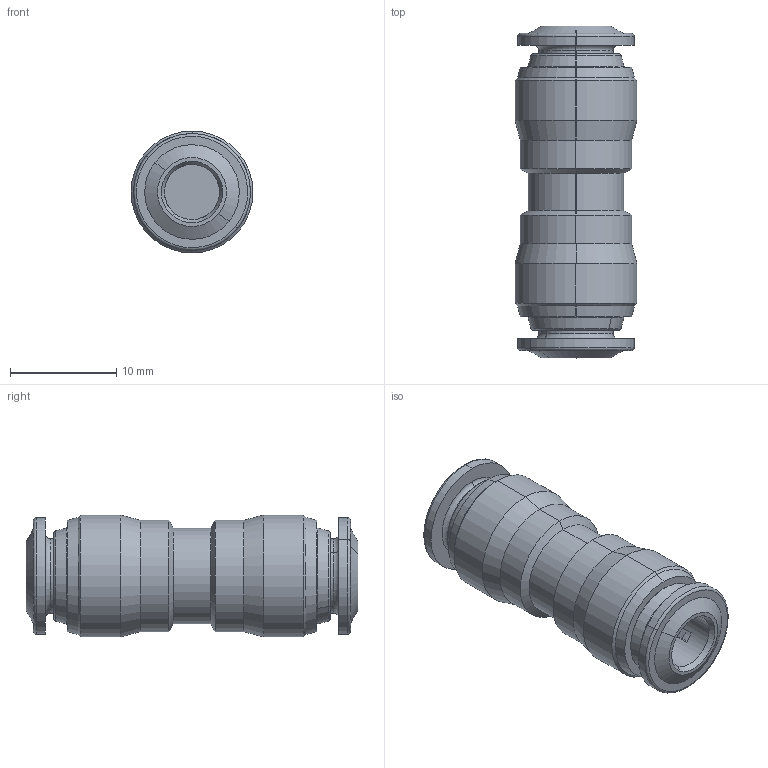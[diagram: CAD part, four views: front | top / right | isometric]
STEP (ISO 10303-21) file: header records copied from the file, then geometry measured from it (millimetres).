
FILE_DESCRIPTION(/* description */ (''),/* implementation_level */ '2;1');
FILE_NAME(/* name */ 'K:\praktykant1\Tomasz Zadworny\Aignep\57040 5\57040 5.stp',/* time_stamp */ '2014-07-02T15:23:26+02:00',/* author */ ('Praktykant1'),/* organization */ (''),/* preprocessor_version */ 'ST-DEVELOPER v15.6',/* originating_system */ 'Autodesk Inventor 2015',/* authorisation */ '');
FILE_SCHEMA (('AUTOMOTIVE_DESIGN { 1 0 10303 214 3 1 1 }'));
Length unit declared in the file: millimetre
Products named in the file (1): 57040 5
Bounding box: 11.5 x 31.3 x 11.5 mm (x, y, z)
Surface area: 1624.2 mm2 (no closed solid volume)
Topology: 0 solids, 102 shells, 102 faces, 430 edges, 430 vertices
Faces by surface type: cone 36, cylinder 26, plane 24, torus 16
Entity records: 4868 total; most frequent: CARTESIAN_POINT 963, DIRECTION 878, VERTEX_POINT 430, EDGE_CURVE 430, ORIENTED_EDGE 430, AXIS2_PLACEMENT_3D 345, CIRCLE 242, LINE 188
